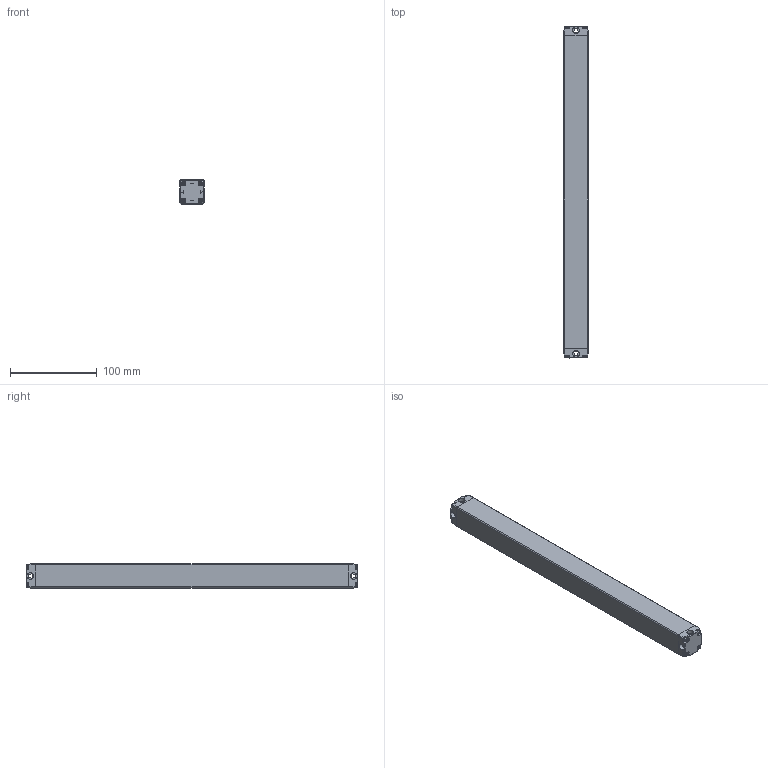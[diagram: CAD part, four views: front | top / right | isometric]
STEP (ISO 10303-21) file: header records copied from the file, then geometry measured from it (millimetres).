
FILE_DESCRIPTION((''),'2;1');
FILE_NAME('ELD00_ASM','2021-07-20T09:24:23',('18720616900'),(''),'CREO PARAMETRIC BY PTC INC, 2019010','CREO PARAMETRIC BY PTC INC, 2019010','');
FILE_SCHEMA(('CONFIG_CONTROL_DESIGN'));
Length unit declared in the file: millimetre
Products named in the file (6): ELD--00; ELD--000; ST-3-12; ELD00_ASM
Assembly tree (12 placements, depth 2):
  ELD00_ASM
    ELD--00
    ELD--000
    ELD--000
    ELD--000
    ST-3-12  x8
Bounding box: 28 x 382 x 28 mm (x, y, z)
Volume: 295248.8 mm3; surface area: 67087.4 mm2
Topology: 12 solids, 12 shells, 792 faces, 2082 edges, 1296 vertices
Faces by surface type: plane 236, cone 172, bspline 168, cylinder 156, torus 44, sphere 16
Entity records: 14414 total; most frequent: CARTESIAN_POINT 6863, ORIENTED_EDGE 1584, DIRECTION 1469, EDGE_CURVE 792, AXIS2_PLACEMENT_3D 520, VERTEX_POINT 491, VECTOR 429, LINE 429
